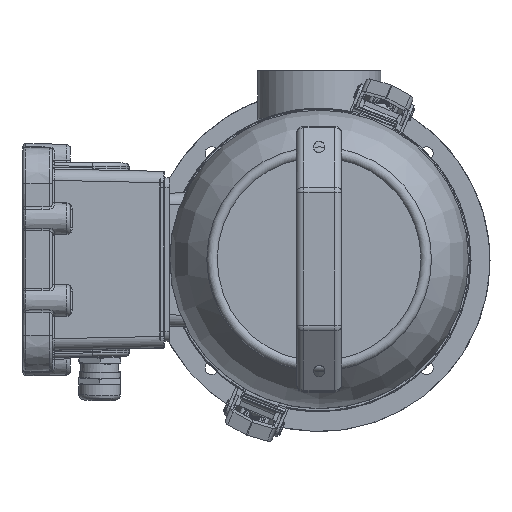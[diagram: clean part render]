
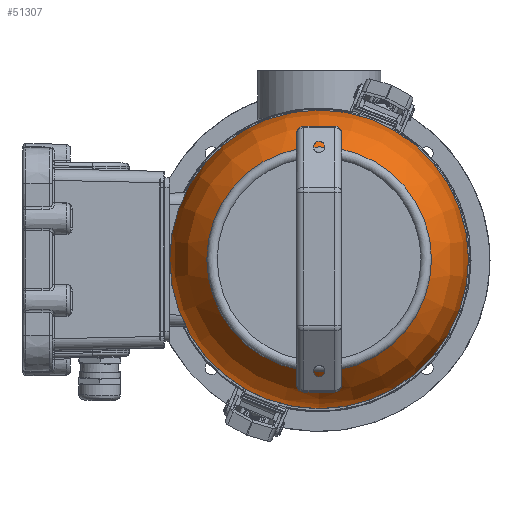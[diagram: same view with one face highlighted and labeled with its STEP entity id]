
A CAD part, top view. The second image highlights one B-rep face of the part: STEP entity #51307.
In plain terms, the highlighted toroidal (fillet/blend) face has major radius 19.275 mm and minor radius 59.391 mm.
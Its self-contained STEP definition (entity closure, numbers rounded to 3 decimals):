
#104=DEGENERATE_TOROIDAL_SURFACE('',#54285,19.275,59.391,
 .T.);
#11297=ORIENTED_EDGE('',*,*,#20248,.F.);
#11298=ORIENTED_EDGE('',*,*,#20243,.T.);
#20243=EDGE_CURVE('',#24948,#24948,#27785,.T.);
#20248=EDGE_CURVE('',#24953,#24953,#27790,.T.);
#24948=VERTEX_POINT('',#87826);
#24953=VERTEX_POINT('',#87841);
#27785=CIRCLE('',#54276,59.166);
#27790=CIRCLE('',#54286,78.666);
#29916=EDGE_LOOP('',(#11297));
#29917=EDGE_LOOP('',(#11298));
#32605=FACE_BOUND('',#29916,.T.);
#32606=FACE_BOUND('',#29917,.T.);
#51307=ADVANCED_FACE('',(#32605,#32606),#104,.T.);
#54276=AXIS2_PLACEMENT_3D('',#87825,#60544,#60545);
#54285=AXIS2_PLACEMENT_3D('',#87839,#60562,#60563);
#54286=AXIS2_PLACEMENT_3D('',#87840,#60564,#60565);
#60544=DIRECTION('',(0.,0.,-1.));
#60545=DIRECTION('',(0.,-1.,0.));
#60562=DIRECTION('',(0.,0.,-1.));
#60563=DIRECTION('',(0.,-1.,0.));
#60564=DIRECTION('',(0.,0.,-1.));
#60565=DIRECTION('',(0.,-1.,0.));
#87825=CARTESIAN_POINT('',(0.,0.,639.553));
#87826=CARTESIAN_POINT('',(0.,-59.166,639.553));
#87839=CARTESIAN_POINT('',(0.,0.,595.553));
#87840=CARTESIAN_POINT('',(0.,0.,595.746));
#87841=CARTESIAN_POINT('',(0.,-78.666,595.746));
